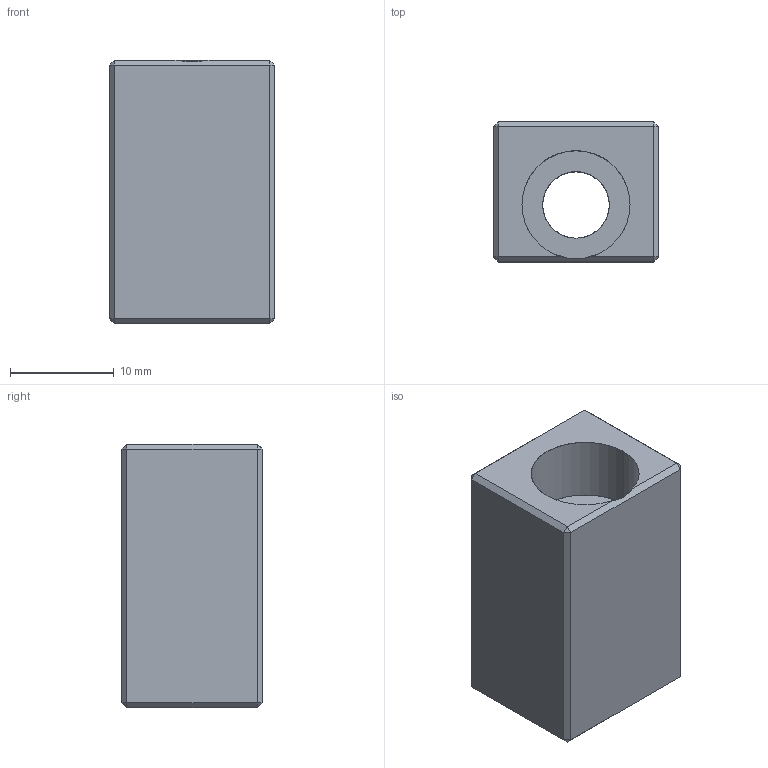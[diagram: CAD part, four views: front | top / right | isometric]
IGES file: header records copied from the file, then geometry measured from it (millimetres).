
Start section: SolidWorks IGES FILE using analytic representation for surfaces
Global section: file name: C:\WIX2\Positioning\3030\3030W230.igs; native system: SolidWorks 2003 by SolidWorks Corporation; preprocessor: Version 5.3; author: Joan; date: 030722.120012; units: millimetre
Bounding box: 15.9 x 13.5 x 25.4 mm (x, y, z)
Surface area: 2384.7 mm2 (no closed solid volume)
Topology: 0 solids, 0 shells, 31 faces, 249 edges, 249 vertices
Faces by surface type: bspline 27, revolution 4
